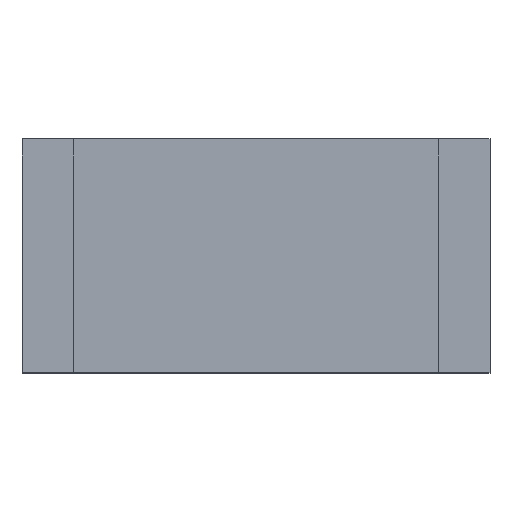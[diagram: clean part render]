
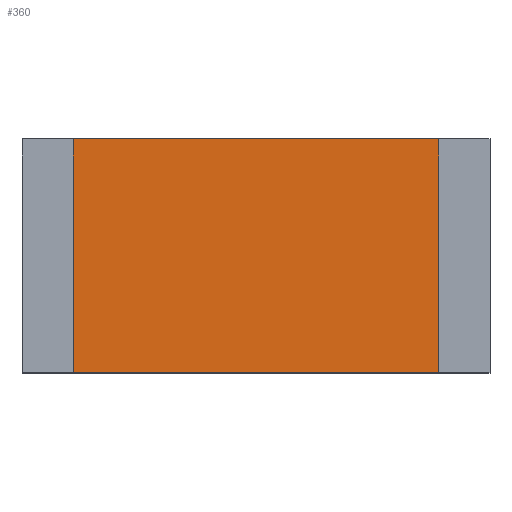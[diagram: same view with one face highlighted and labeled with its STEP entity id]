
A CAD part, top view. The second image highlights one B-rep face of the part: STEP entity #360.
In plain terms, the highlighted planar face has unit normal (0, 0, 1).
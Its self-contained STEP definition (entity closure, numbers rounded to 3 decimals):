
#360=ADVANCED_FACE('',(#759),#761,.T.);
#759=FACE_BOUND('',#760,.T.);
#760=EDGE_LOOP('',(#1046,#1047,#1048,#1049));
#761=PLANE('',#762);
#762=AXIS2_PLACEMENT_3D('',#763,#764,#765);
#763=CARTESIAN_POINT('',(0.,0.,0.495));
#764=DIRECTION('',(0.,0.,1.));
#765=DIRECTION('',(-1.,0.,0.));
#1046=ORIENTED_EDGE('',*,*,#1218,.T.);
#1047=ORIENTED_EDGE('',*,*,#1222,.T.);
#1048=ORIENTED_EDGE('',*,*,#1225,.T.);
#1049=ORIENTED_EDGE('',*,*,#1227,.T.);
#1218=EDGE_CURVE('',#1384,#1382,#1385,.T.);
#1222=EDGE_CURVE('',#1382,#1389,#1391,.T.);
#1225=EDGE_CURVE('',#1389,#1394,#1396,.T.);
#1227=EDGE_CURVE('',#1394,#1384,#1398,.T.);
#1382=VERTEX_POINT('',#1709);
#1384=VERTEX_POINT('',#1713);
#1385=LINE('',#1714,#1715);
#1389=VERTEX_POINT('',#1724);
#1391=LINE('',#1728,#1729);
#1394=VERTEX_POINT('',#1735);
#1396=LINE('',#1739,#1740);
#1398=LINE('',#1745,#1746);
#1709=CARTESIAN_POINT('',(-1.25,0.8,0.495));
#1713=CARTESIAN_POINT('',(1.25,0.8,0.495));
#1714=CARTESIAN_POINT('',(1.25,0.8,0.495));
#1715=VECTOR('',#1716,1.);
#1716=DIRECTION('',(-1.,0.,0.));
#1724=CARTESIAN_POINT('',(-1.25,-0.8,0.495));
#1728=CARTESIAN_POINT('',(-1.25,0.8,0.495));
#1729=VECTOR('',#1730,1.);
#1730=DIRECTION('',(0.,-1.,0.));
#1735=CARTESIAN_POINT('',(1.25,-0.8,0.495));
#1739=CARTESIAN_POINT('',(-1.25,-0.8,0.495));
#1740=VECTOR('',#1741,1.);
#1741=DIRECTION('',(1.,0.,0.));
#1745=CARTESIAN_POINT('',(1.25,-0.8,0.495));
#1746=VECTOR('',#1747,1.);
#1747=DIRECTION('',(0.,1.,0.));
